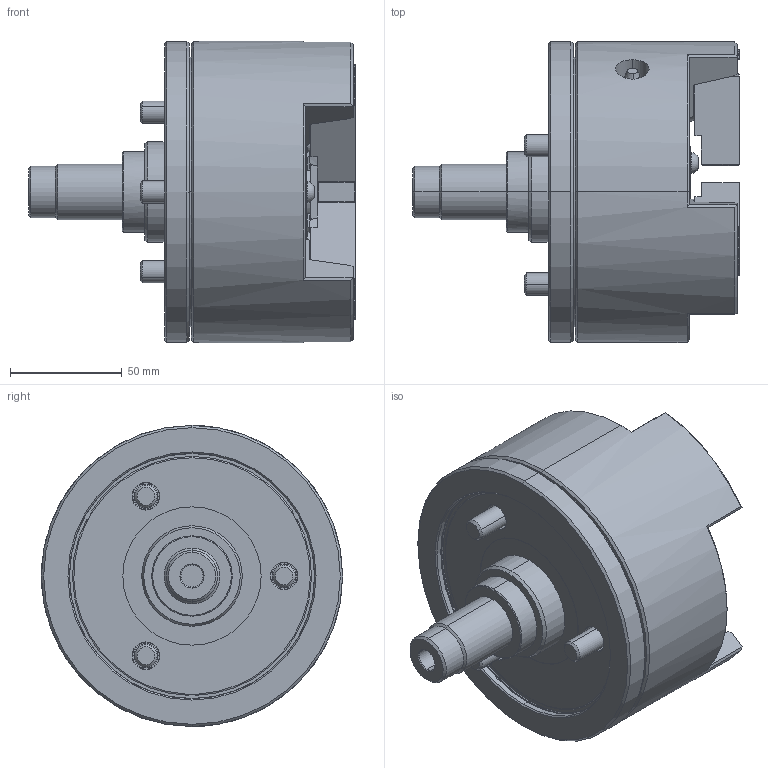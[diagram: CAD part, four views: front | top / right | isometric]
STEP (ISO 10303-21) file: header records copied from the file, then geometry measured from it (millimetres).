
FILE_DESCRIPTION (( 'STEP AP214' ), '1' );
FILE_NAME ('PU205_OC.STEP', '2019-10-18T08:06:22', ( '' ), ( '' ), 'SwSTEP 2.0', 'SolidWorks 2017', '' );
FILE_SCHEMA (( 'AUTOMOTIVE_DESIGN' ));
Length unit declared in the file: millimetre
Products named in the file (4): 61P340355; PU205_OC; 結合; 0030108020
Assembly tree (7 placements, depth 2):
  PU205_OC
    61P340355  x3
    0030108020  x3
    結合
Bounding box: 146.5 x 135 x 135 mm (x, y, z)
Volume: 976660.8 mm3; surface area: 119516.9 mm2
Topology: 7 solids, 7 shells, 973 faces, 2426 edges, 1522 vertices
Faces by surface type: plane 474, cone 178, cylinder 161, bspline 129, torus 31
Entity records: 30966 total; most frequent: CARTESIAN_POINT 11114, ORIENTED_EDGE 4344, DIRECTION 3643, EDGE_CURVE 2172, VERTEX_POINT 1380, AXIS2_PLACEMENT_3D 1230, LINE 1183, VECTOR 1183
